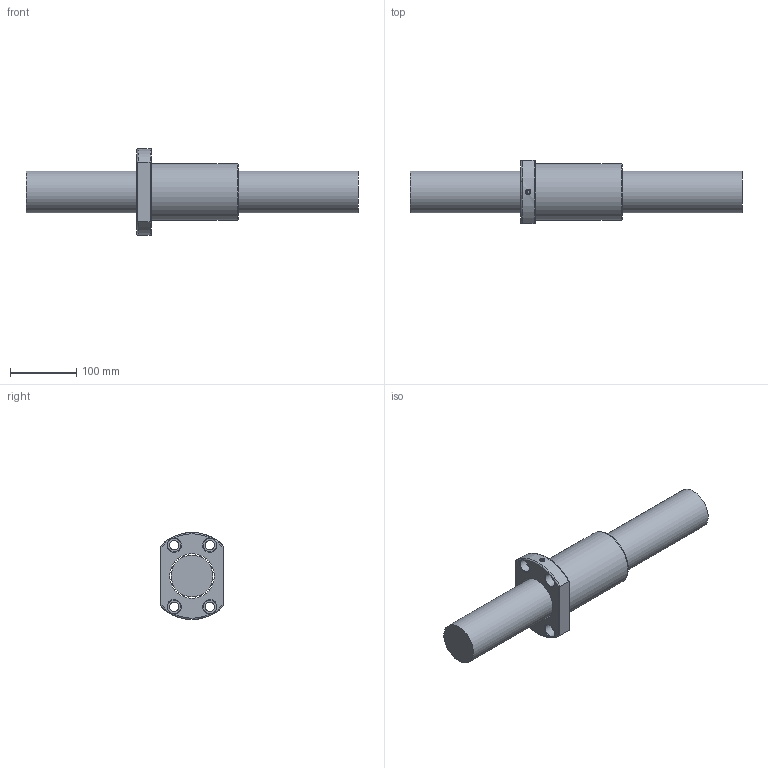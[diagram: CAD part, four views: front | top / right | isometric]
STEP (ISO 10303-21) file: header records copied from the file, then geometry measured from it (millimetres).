
FILE_DESCRIPTION (( 'STEP AP203' ), '1' );
FILE_NAME ('OFI06310D-4.step', '2024-05-17T03:24:00', ( '' ), ( '' ), 'SwSTEP 2.0', 'SolidWorks 2022', '' );
FILE_SCHEMA (( 'CONFIG_CONTROL_DESIGN' ));
Length unit declared in the file: millimetre
Products named in the file (1): OFI06310D-4
Bounding box: 500 x 95 x 131 mm (x, y, z)
Volume: 1984972.8 mm3; surface area: 199680 mm2
Topology: 2 solids, 2 shells, 56 faces, 143 edges, 92 vertices
Faces by surface type: cylinder 21, plane 16, cone 9, bspline 5, torus 5
Full cylindrical faces by diameter (mm): 4 x1, 7 x6, 14 x4, 20 x4, 63 x1, 67.1 x1, 85 x1
Entity records: 3353 total; most frequent: CARTESIAN_POINT 2267, DIRECTION 198, ORIENTED_EDGE 182, AXIS2_PLACEMENT_3D 91, EDGE_CURVE 91, EDGE_LOOP 86, VERTEX_POINT 71, FACE_OUTER_BOUND 64
